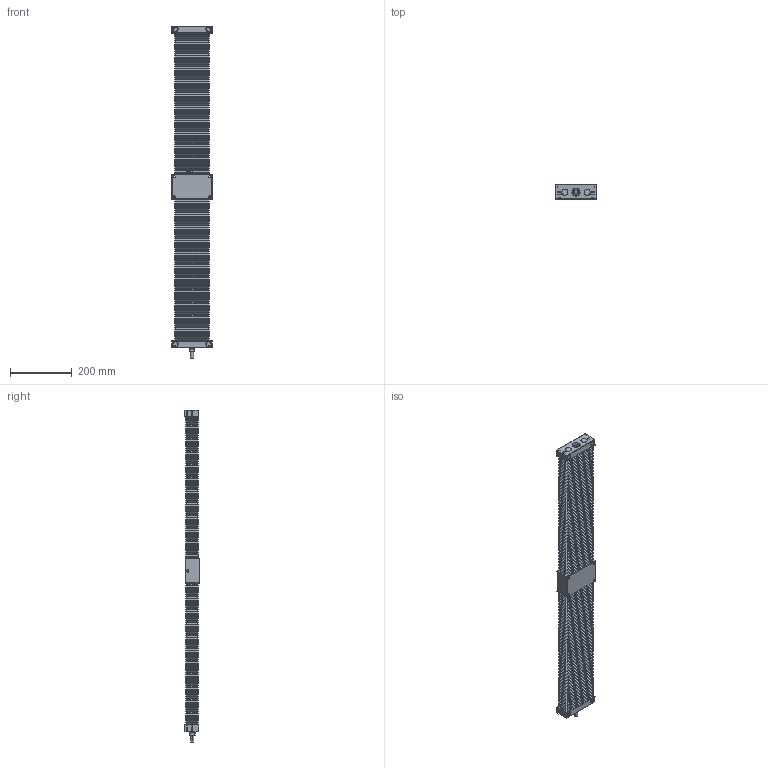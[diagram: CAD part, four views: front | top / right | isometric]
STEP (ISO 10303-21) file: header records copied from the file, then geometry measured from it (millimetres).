
FILE_DESCRIPTION (( 'STEP AP214' ), '1' );
FILE_NAME ('TKC2010B-600H0C-Ä£×é.step', '2025-08-25T08:40:02', ( '' ), ( '' ), 'SwSTEP 2.0', 'SolidWorks 2024', '' );
FILE_SCHEMA (( 'AUTOMOTIVE_DESIGN' ));
Length unit declared in the file: millimetre
Products named in the file (4): TKC2010B-600H0C-模组; TKC20-02; TKC20-600-01; TKC20-600-03
Assembly tree (4 placements, depth 2):
  TKC2010B-600H0C-模组
    TKC20-02
    TKC20-600-01
    TKC20-600-03  x2
Bounding box: 130 x 48 x 1073.5 mm (x, y, z)
Volume: 3479000.8 mm3; surface area: 1122049 mm2
Topology: 14 solids, 14 shells, 2724 faces, 5959 edges, 3308 vertices
Faces by surface type: plane 2145, cylinder 504, cone 36, torus 28, bspline 11
Entity records: 71596 total; most frequent: CARTESIAN_POINT 32902, ORIENTED_EDGE 8054, DIRECTION 7497, EDGE_CURVE 4027, VECTOR 2929, LINE 2929, VERTEX_POINT 2348, AXIS2_PLACEMENT_3D 2284
